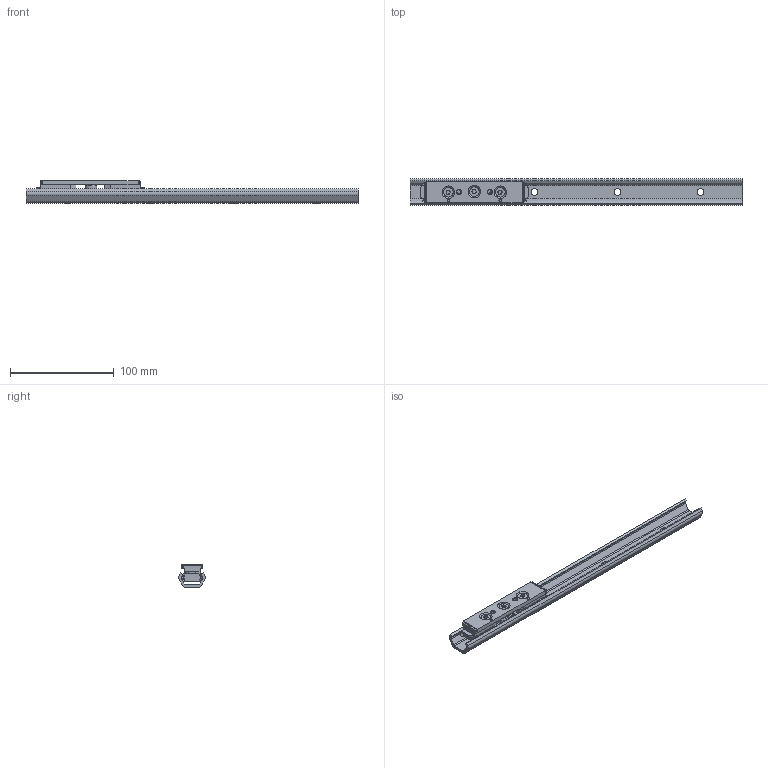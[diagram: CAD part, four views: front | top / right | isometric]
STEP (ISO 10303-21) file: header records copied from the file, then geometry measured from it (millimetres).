
FILE_DESCRIPTION( ( 'STEP AP214' ), '1' );
FILE_NAME( 'p:/temp/worker_300/temp/exporttempdir_2980_171_OA18a/format_0/TEN26-0320-CEN26-92T.stp', '2020-01-13T20:07:31', ( '' ), ( '' ), ' ', 'PARTsolutions', ' ' );
FILE_SCHEMA( ( 'AUTOMOTIVE_DESIGN { 1 0 10303 214 1 1 1 1 }' ) );
Length unit declared in the file: millimetre
Products named in the file (7): TEN26-0320-CEN26-92T; _TEN 26-320; _CEN26-92T_1; _LAN_WIPER-26; _RLN26(11.2_M5); _RLA26(11.2_M5); _LAN-26
Assembly tree (10 placements, depth 2):
  TEN26-0320-CEN26-92T
    _TEN 26-320
    _CEN26-92T_1
    _LAN_WIPER-26  x2
    _RLN26(11.2_M5)  x2
    _RLA26(11.2_M5)
    _LAN-26  x3
Bounding box: 320 x 26 x 22 mm (x, y, z)
Volume: 53977.7 mm3; surface area: 42404.2 mm2
Topology: 10 solids, 10 shells, 391 faces, 983 edges, 639 vertices
Faces by surface type: plane 237, cylinder 113, cone 24, bspline 17
Full cylindrical faces by diameter (mm): 2.5 x2, 4.134 x5, 4.5 x3, 5 x6, 6.5 x4, 9.3 x3, 11.2 x6, 11.6 x6, 15.7 x6, 16.7 x6
Entity records: 8791 total; most frequent: CARTESIAN_POINT 1473, DIRECTION 1119, ORIENTED_EDGE 1020, EDGE_CURVE 510, AXIS2_PLACEMENT_3D 417, VERTEX_POINT 365, EDGE_LOOP 325, LINE 285
